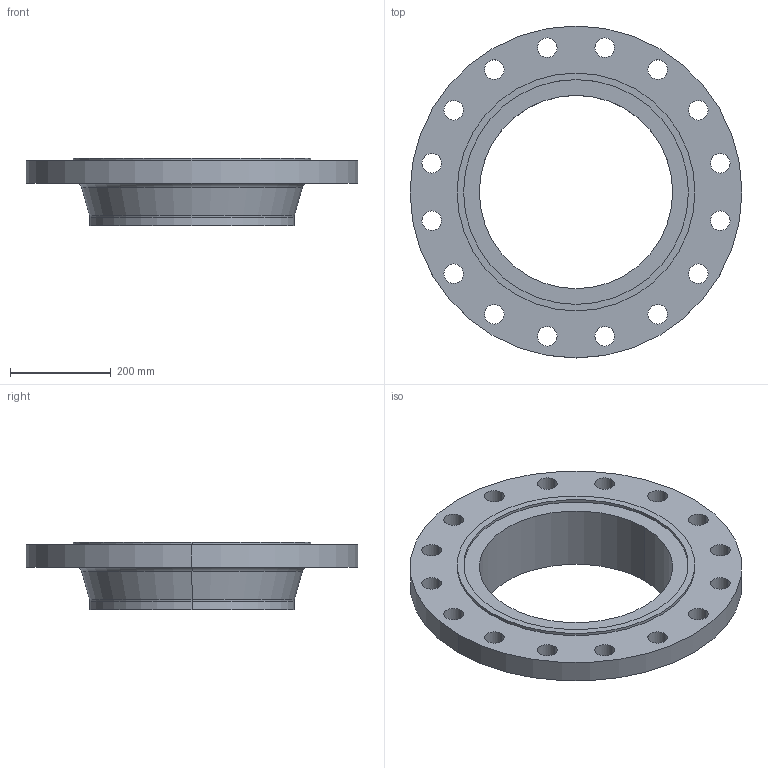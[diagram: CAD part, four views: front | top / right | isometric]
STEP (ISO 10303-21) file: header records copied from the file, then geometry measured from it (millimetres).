
FILE_DESCRIPTION (( 'STEP AP214' ), '1' );
FILE_NAME ('PN40 DN400 Type 11 - Type C Face.STEP', '2019-01-05T23:19:44', ( '' ), ( '' ), 'SwSTEP 2.0', 'SolidWorks 2019', '' );
FILE_SCHEMA (( 'AUTOMOTIVE_DESIGN' ));
Length unit declared in the file: millimetre
Products named in the file (1): PN40 DN400 Type 11 - Type C Face
Bounding box: 660 x 660 x 135 mm (x, y, z)
Volume: 11316045.9 mm3; surface area: 852946.5 mm2
Topology: 1 solids, 1 shells, 53 faces, 138 edges, 90 vertices
Faces by surface type: cylinder 42, plane 5, torus 4, cone 2
Entity records: 1780 total; most frequent: DIRECTION 340, CARTESIAN_POINT 282, ORIENTED_EDGE 276, AXIS2_PLACEMENT_3D 148, EDGE_CURVE 138, CIRCLE 94, EDGE_LOOP 90, VERTEX_POINT 90
